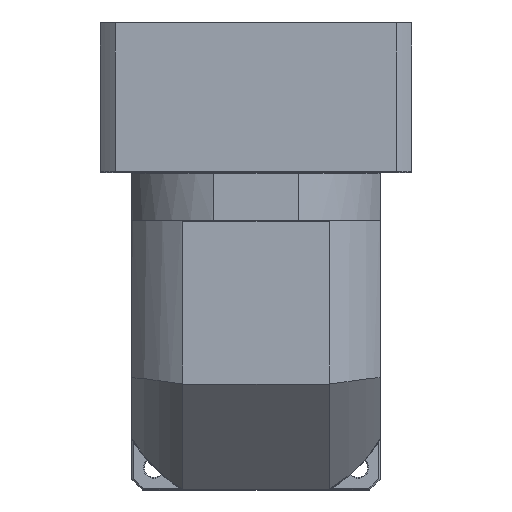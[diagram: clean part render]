
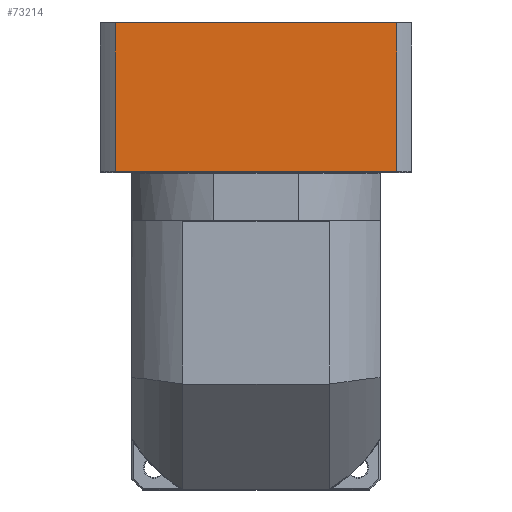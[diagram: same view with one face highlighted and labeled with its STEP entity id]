
A CAD part, top view. The second image highlights one B-rep face of the part: STEP entity #73214.
In plain terms, the highlighted planar face has unit normal (0, 0, 1).
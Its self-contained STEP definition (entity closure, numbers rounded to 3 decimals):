
#2939 = LINE ( 'NONE', #74370, #71481 ) ;
#3273 = PLANE ( 'NONE',  #73079 ) ;
#4820 = CARTESIAN_POINT ( 'NONE',  ( -184.267, 235.191, 106.252 ) ) ;
#6157 = VERTEX_POINT ( 'NONE', #118180 ) ;
#13460 = LINE ( 'NONE', #64686, #36962 ) ;
#13902 = EDGE_LOOP ( 'NONE', ( #115407, #133289, #43764, #96853 ) ) ;
#14050 = DIRECTION ( 'NONE',  ( 0., 0., -1. ) ) ;
#21085 = DIRECTION ( 'NONE',  ( -1., 0., 0. ) ) ;
#23869 = CARTESIAN_POINT ( 'NONE',  ( -14.775, 235.691, 106.252 ) ) ;
#36962 = VECTOR ( 'NONE', #75495, 1000. ) ;
#43764 = ORIENTED_EDGE ( 'NONE', *, *, #114080, .F. ) ;
#44615 = CARTESIAN_POINT ( 'NONE',  ( -32.775, 235.191, 106.252 ) ) ;
#44791 = EDGE_CURVE ( 'NONE', #126038, #103976, #2939, .T. ) ;
#45374 = DIRECTION ( 'NONE',  ( 0., -1., 0. ) ) ;
#64686 = CARTESIAN_POINT ( 'NONE',  ( -184.267, -193.114, 106.252 ) ) ;
#71481 = VECTOR ( 'NONE', #21085, 1000. ) ;
#72654 = CARTESIAN_POINT ( 'NONE',  ( -184.267, 150.191, 106.252 ) ) ;
#73079 = AXIS2_PLACEMENT_3D ( 'NONE', #23869, #14050, #45374 ) ;
#73214 = ADVANCED_FACE ( 'NONE', ( #74939 ), #3273, .F. ) ;
#74370 = CARTESIAN_POINT ( 'NONE',  ( -14.775, 150.191, 106.252 ) ) ;
#74939 = FACE_OUTER_BOUND ( 'NONE', #13902, .T. ) ;
#75495 = DIRECTION ( 'NONE',  ( 0., 1., 0. ) ) ;
#79377 = EDGE_CURVE ( 'NONE', #92559, #6157, #111331, .T. ) ;
#92559 = VERTEX_POINT ( 'NONE', #4820 ) ;
#96853 = ORIENTED_EDGE ( 'NONE', *, *, #79377, .F. ) ;
#100982 = EDGE_CURVE ( 'NONE', #103976, #92559, #13460, .T. ) ;
#103976 = VERTEX_POINT ( 'NONE', #72654 ) ;
#107973 = VECTOR ( 'NONE', #108276, 1000. ) ;
#108276 = DIRECTION ( 'NONE',  ( 1., 0., 0. ) ) ;
#111331 = LINE ( 'NONE', #44615, #107973 ) ;
#114080 = EDGE_CURVE ( 'NONE', #6157, #126038, #120676, .T. ) ;
#115407 = ORIENTED_EDGE ( 'NONE', *, *, #100982, .F. ) ;
#117515 = DIRECTION ( 'NONE',  ( 0., -1., 0. ) ) ;
#118180 = CARTESIAN_POINT ( 'NONE',  ( -23.283, 235.191, 106.252 ) ) ;
#120676 = LINE ( 'NONE', #128739, #137376 ) ;
#125002 = CARTESIAN_POINT ( 'NONE',  ( -23.283, 150.191, 106.252 ) ) ;
#126038 = VERTEX_POINT ( 'NONE', #125002 ) ;
#128739 = CARTESIAN_POINT ( 'NONE',  ( -23.283, -193.114, 106.252 ) ) ;
#133289 = ORIENTED_EDGE ( 'NONE', *, *, #44791, .F. ) ;
#137376 = VECTOR ( 'NONE', #117515, 1000. ) ;
